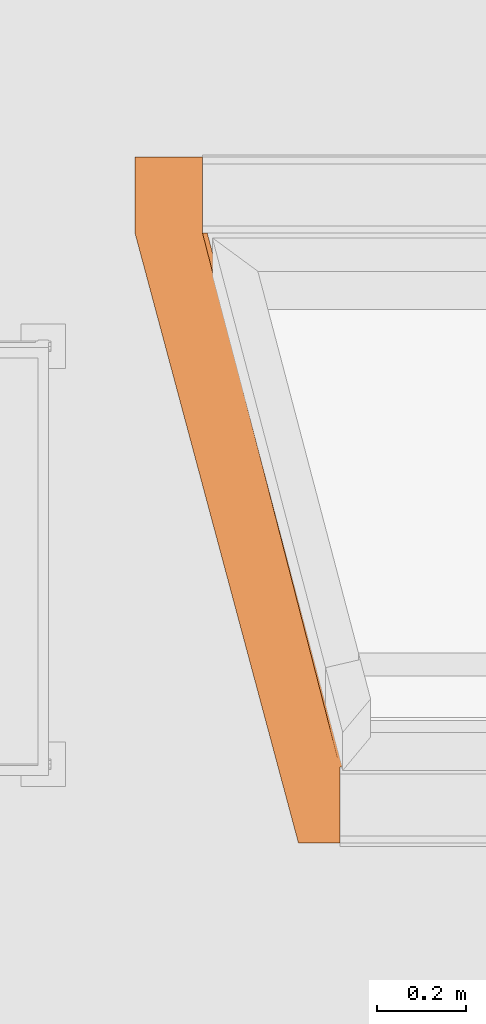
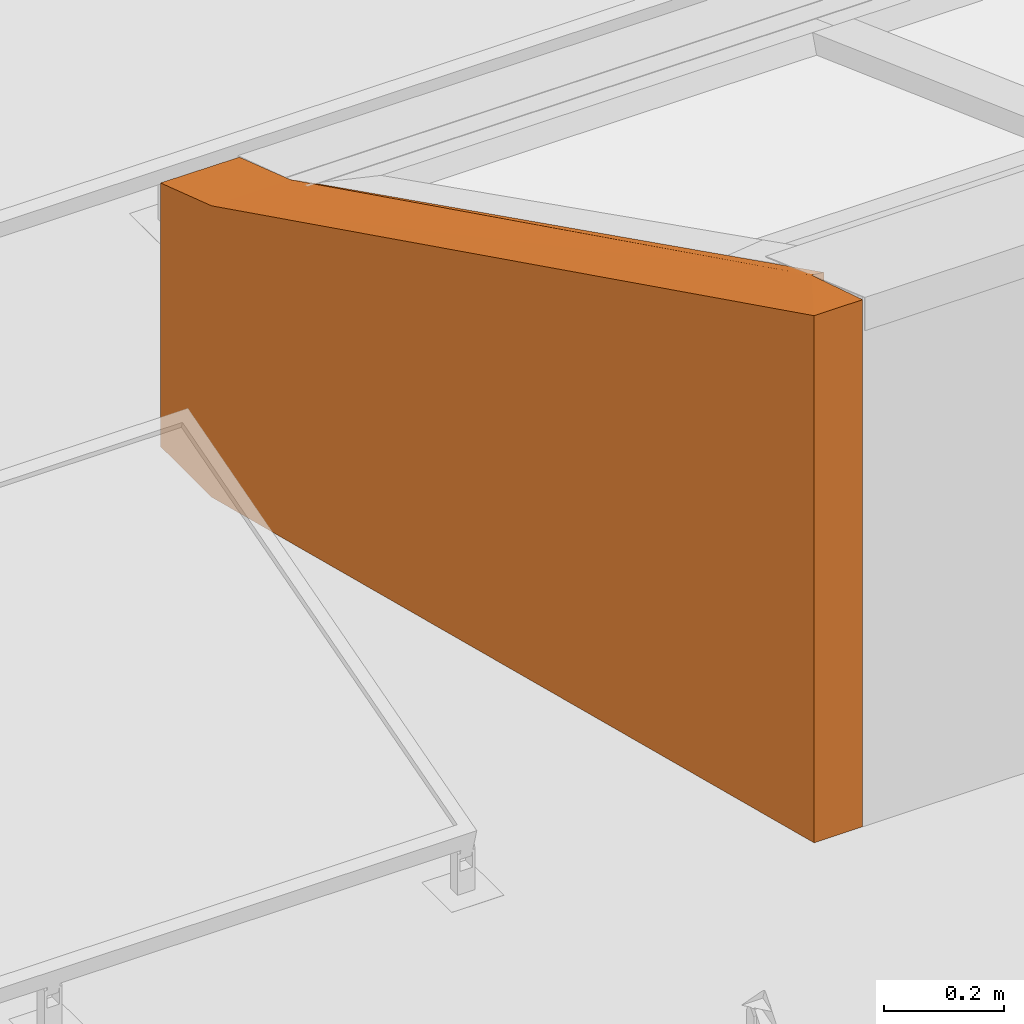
# One storey, part 17 of 20: 1 proxy.
"""IFC2X3 building model written with IfcOpenShell, lengths in millimetres."""

from ifc_helpers import new_model, entity, si_unit, converted_unit, derived_unit, money_unit, direction, frame, origin_with_axes, place, context, subcontext, project, spatial, faceted_brep, source, transform, mapped, material, type_object, type_shapes, element, save


model = new_model("IFC2X3")

# Units and contexts
model_context = context("Model", 3, precision=0.01, world=origin_with_axes(), true_north=direction((0.0, 1.0)))
plan_context = context("Plan", 3, precision=0.01, world=origin_with_axes(), true_north=direction((0.0, 1.0)))
body_context = subcontext(model_context, "Body", "Model", "MODEL_VIEW")
ifc_project = project(units=[si_unit("LENGTHUNIT", "METRE", prefix="MILLI"), si_unit("AREAUNIT", "SQUARE_METRE"), si_unit("VOLUMEUNIT", "CUBIC_METRE"), converted_unit("PLANEANGLEUNIT", "DEGREE", entity("IfcPlaneAngleMeasure", 0.0174532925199), si_unit("PLANEANGLEUNIT", "RADIAN"), dimensions=[0, 0, 0, 0, 0, 0, 0]), si_unit("SOLIDANGLEUNIT", "STERADIAN"), money_unit("EUR"), converted_unit("TIMEUNIT", "Year", entity("IfcTimeMeasure", 31556926.0), si_unit("TIMEUNIT", "SECOND"), dimensions=[0, 0, 1, 0, 0, 0, 0]), si_unit("MASSUNIT", "GRAM", prefix="KILO"), si_unit("THERMODYNAMICTEMPERATUREUNIT", "DEGREE_CELSIUS"), si_unit("LUMINOUSINTENSITYUNIT", "LUMEN"), si_unit("ENERGYUNIT", "JOULE", prefix="MEGA"), derived_unit("THERMALCONDUCTANCEUNIT", [(si_unit("POWERUNIT", "WATT"), 1), (si_unit("LENGTHUNIT", "METRE"), -1), (si_unit("THERMODYNAMICTEMPERATUREUNIT", "KELVIN"), -1)]), derived_unit("SPECIFICHEATCAPACITYUNIT", [(si_unit("ENERGYUNIT", "JOULE"), 1), (si_unit("MASSUNIT", "GRAM", prefix="KILO"), -1), (si_unit("THERMODYNAMICTEMPERATUREUNIT", "KELVIN"), -1)]), derived_unit("MASSDENSITYUNIT", [(si_unit("MASSUNIT", "GRAM", prefix="KILO"), 1), (si_unit("VOLUMEUNIT", "CUBIC_METRE"), -1)])], contexts=[model_context, plan_context])

# Site, building, storey
site_placement = place(None, origin_with_axes())
site = spatial("IfcSite", under=ifc_project, at=site_placement, Name="Site", CompositionType="ELEMENT")
building_placement = place(site_placement, origin_with_axes())
building = spatial("IfcBuilding", under=site, at=building_placement, Name="Naam gebouw", CompositionType="ELEMENT")
storey_placement = place(building_placement, frame((0.0, 0.0, 7920.0), z_axis=(0.0, 0.0, 1.0), x_axis=(1.0, 0.0, 0.0)))
storey = spatial("IfcBuildingStorey", under=building, at=storey_placement, Name="2e verdieping", CompositionType="ELEMENT", Elevation=7920.0)

# Proxy
ifc_material = material(Name="ALG - BINNENAFWERKING")
building_element_proxy_type = type_object("IfcBuildingElementProxyType", Name="ALG - BINNENAFWERKING", PredefinedType="USERDEFINED")
shared_shape = source(origin_with_axes(), body_context, "Body", "Brep", [
    faceted_brep([(-151.674835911, 0.0, 0.0), (-151.674835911, -170.000015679, 0.0), (-151.674835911, -170.000015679, 592.081900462), (-151.674835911, 0.0, 535.485499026), (0.0, 0.0, 0.0), (0.0, -170.000015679, 0.0), (10.5698879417, -170.000015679, 0.0), (332.096657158, -1369.95425439, 0.0), (308.667905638, -1369.95425439, 0.0), (308.667905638, -1539.94574511, 0.0), (215.401015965, -1539.94574511, 0.0), (215.401015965, -1539.94574511, 1070.97099805), (0.0, -170.000015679, 592.081900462), (0.0, 0.0, 534.743913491), (10.5698879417, -170.000015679, 587.840020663), (332.096657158, -1369.95425439, 1015.28052611), (308.667905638, -1369.95425439, 1017.68821331), (308.667905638, -1539.94574511, 1070.97099805)], [[[0, 1, 2, 3]], [[1, 0, 4, 5, 6, 7, 8, 9, 10]], [[2, 1, 10, 11]], [[3, 2, 12]], [[4, 0, 3, 13]], [[5, 4, 13, 12]], [[6, 5, 12, 14]], [[6, 14, 15, 7]], [[8, 7, 15, 16]], [[9, 8, 16, 17]], [[10, 9, 17, 11]], [[16, 2, 11]], [[2, 16, 12]], [[13, 3, 12]], [[14, 12, 16]], [[16, 15, 14]], [[17, 16, 11]]]),
])
type_shapes(building_element_proxy_type, [shared_shape])
proxy_placement = place(storey_placement, frame((12545.7159481, 25145.0000157, 245.0), z_axis=(0.0, 0.0, 1.0), x_axis=(1.0, 0.0, 0.0)))
element("IfcBuildingElementProxy", 1, at=proxy_placement, inside=storey, type_object=building_element_proxy_type, material=ifc_material, Name="_Massa_OMG Morph", ObjectType="Massing", context=body_context, shape_type="MappedRepresentation", body=[
    mapped(shared_shape, transform((0.0, 0.0, 0.0))),
])

save(model, "model.ifc")
